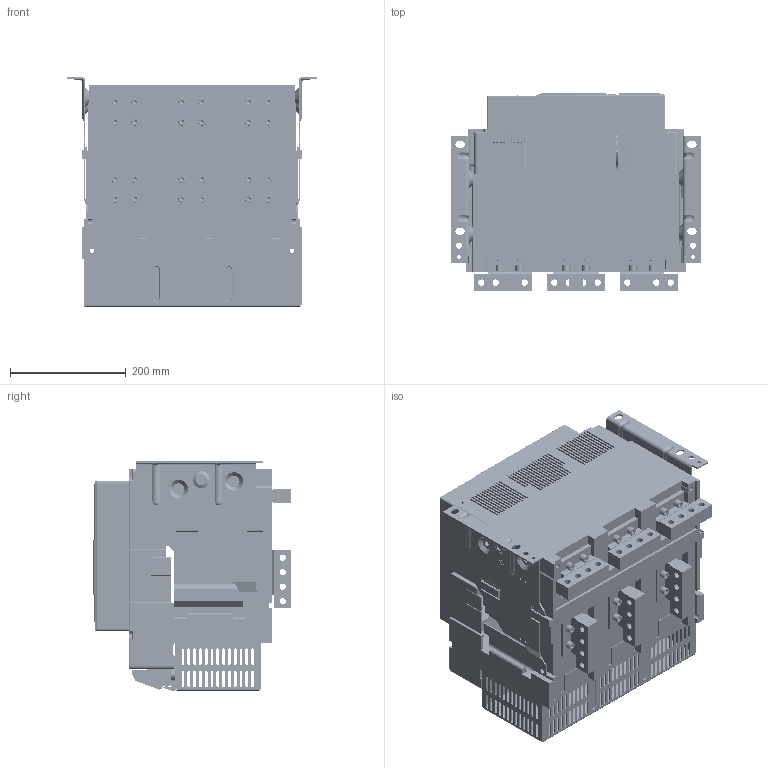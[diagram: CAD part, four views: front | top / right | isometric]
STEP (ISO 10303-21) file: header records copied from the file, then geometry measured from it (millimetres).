
FILE_DESCRIPTION((''),'2;1');
FILE_NAME('NA8-4000H-3P-F-3200A-4000A-VH_ASM','2021-11-10T17:05:43',('lcc'),(''),'CREO PARAMETRIC BY PTC INC, 2020044','CREO PARAMETRIC BY PTC INC, 2020044','');
FILE_SCHEMA(('CONFIG_CONTROL_DESIGN','SHAPE_APPEARANCE_LAYERS_GROUPS'));
Products named in the file (35): 4000-JIZUO-3P; 4000-DIBAN-3P; 8ZTD_123_166_2; 8ZTD_123_167_2; DEFAULT_BREP_X_03-883; DEFAULT_BREP_X_03-884; DEFAULT_BREP_X_03-885; DEFAULT_BREP_X_03-886; DEFAULT_BREP_X_03-887; DEFAULT_BREP_X_03-888; DEFAULT_BREP_X_03-889; 8ZTD_060_209_V4_1_ASM; 8ZTD-253-577; 8ZTD-253-779; 8ZTD-253-780; 8ZTD-321-090; 8-040-432; 8-004-030; 8-320-094; 8-860-KZQ; 8ZTD-253-782; 5ZTD-060-114-2_ASM; 8060A0306108; 8060A0306109; 3P-8300A0306005_; 8ZTD-064-138; 8ZTD-024-689; 8ZTD-860-511; 1600-DUANZI-CTS_ASM; 8580A0412011; 8580A0412010; GBT70_1-M8X20; GB93-8_1; QNKJ_0200012_2-M8X20_ASM; NA8-4000H-3P-F-3200A-4000A-VH_ASM
Assembly tree (74 placements, depth 4):
  NA8-4000H-3P-F-3200A-4000A-VH_ASM
    4000-JIZUO-3P
    4000-DIBAN-3P
    8ZTD_123_166_2
    8ZTD_123_167_2
    5ZTD-060-114-2_ASM
      8ZTD_060_209_V4_1_ASM
        DEFAULT_BREP_X_03-883
        DEFAULT_BREP_X_03-884
        DEFAULT_BREP_X_03-885
        DEFAULT_BREP_X_03-886
        DEFAULT_BREP_X_03-887
        DEFAULT_BREP_X_03-888
        DEFAULT_BREP_X_03-889
      8ZTD-253-577
      8ZTD-253-779
      8ZTD-253-780
      8ZTD-321-090
      8-040-432
      8-004-030
      8-320-094
      8-860-KZQ
      8ZTD-253-782
    8060A0306108
    8060A0306109
    3P-8300A0306005_
    1600-DUANZI-CTS_ASM
      8ZTD-064-138
      8ZTD-024-689  x14
      8ZTD-860-511
    8580A0412011  x5
    8580A0412010
    QNKJ_0200012_2-M8X20_ASM  x24
      GBT70_1-M8X20
      GB93-8_1
Bounding box: 430 x 341.12 x 396 mm (x, y, z)
Volume: 19587634.1 mm3; surface area: 2504836.1 mm2
Topology: 93 solids, 139 shells, 8794 faces, 23927 edges, 15562 vertices
Faces by surface type: plane 6119, cylinder 1710, cone 407, extrusion 225, bspline 180, torus 113, sphere 40
Entity records: 285822 total; most frequent: CARTESIAN_POINT 55482, ORIENTED_EDGE 33050, DIRECTION 30000, PRESENTATION_STYLE_ASSIGNMENT 19420, STYLED_ITEM 19300, EDGE_CURVE 16543, CURVE_STYLE 15140, VECTOR 12454
